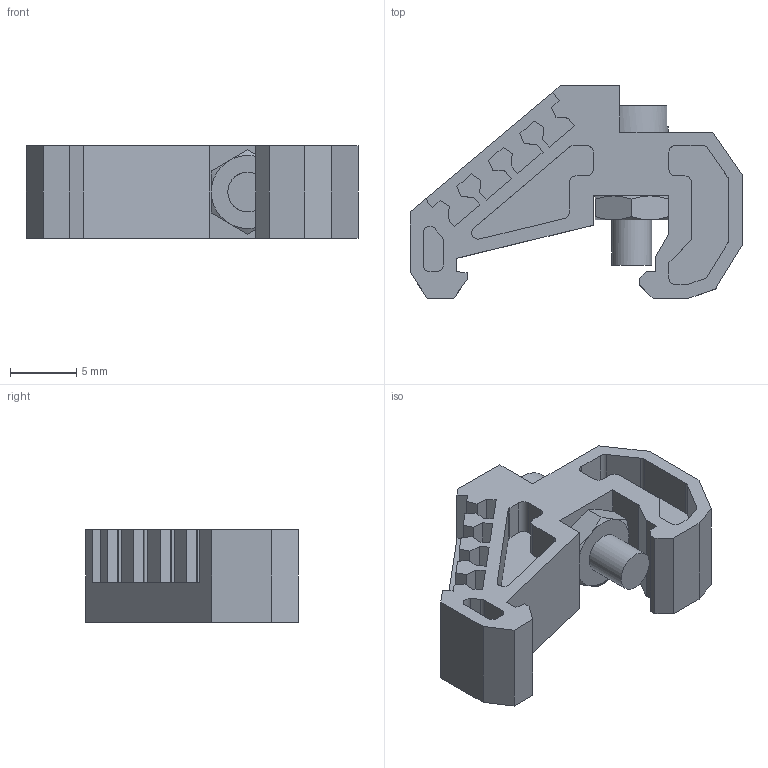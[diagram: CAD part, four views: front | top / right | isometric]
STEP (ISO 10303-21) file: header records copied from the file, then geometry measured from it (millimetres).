
FILE_DESCRIPTION(/* description */ ('Unknown'),/* implementation_level */ '2;1');
FILE_NAME(/* name */ 'Euro mini L15',/* time_stamp */ '2021-05-19T07:32:40+02:00',/* author */ ('Unknown'),/* organization */ ('Unknown'),/* preprocessor_version */ 'ST-DEVELOPER v16.7',/* originating_system */ 'Solid Edge',/* authorisation */ 'Unknown');
FILE_SCHEMA (('AUTOMOTIVE_DESIGN {1 0 10303 214 3 1 1}'));
Length unit declared in the file: millimetre
Products named in the file (1): koncová svorka
Bounding box: 25 x 16 x 7 mm (x, y, z)
Volume: 1182.6 mm3; surface area: 1632.8 mm2
Topology: 1 solids, 1 shells, 179 faces, 493 edges, 325 vertices
Faces by surface type: plane 126, cylinder 41, cone 12
Full cylindrical faces by diameter (mm): 3 x1, 5.5 x1
Entity records: 6929 total; most frequent: CARTESIAN_POINT 1064, ORIENTED_EDGE 978, DIRECTION 922, EDGE_CURVE 489, LINE 368, VECTOR 368, VERTEX_POINT 323, AXIS2_PLACEMENT_3D 277
